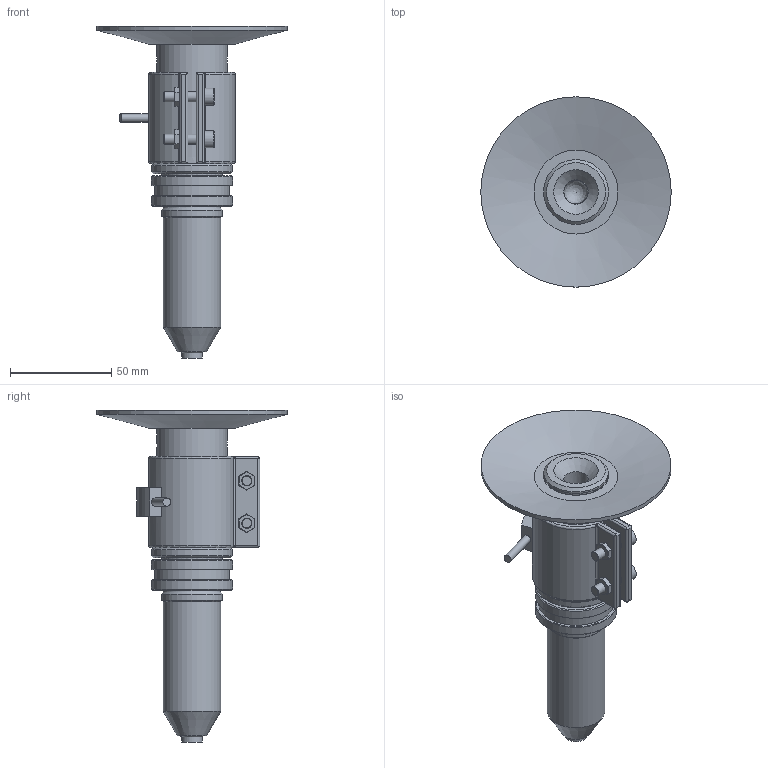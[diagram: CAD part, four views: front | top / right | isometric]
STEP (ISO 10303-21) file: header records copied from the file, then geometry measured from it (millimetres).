
FILE_DESCRIPTION(('STEP AP214'),'1');
FILE_NAME('IPS300-C.stp','2018-06-14T10:13:38',(' '),(' '),'Spatial InterOp 3D',' ',' ');
FILE_SCHEMA(('AUTOMOTIVE_DESIGN { 1 0 10303 214 1 1 1 1 }'));
Length unit declared in the file: millimetre
Products named in the file (1): 1
Bounding box: 94 x 94 x 163.94 mm (x, y, z)
Volume: 147633.6 mm3; surface area: 64680.3 mm2
Topology: 9 solids, 9 shells, 209 faces, 444 edges, 268 vertices
Faces by surface type: plane 96, cylinder 56, cone 37, revolution 10, torus 6, bspline 4
Full cylindrical faces by diameter (mm): 3 x1, 4 x1, 4.2 x2, 4.55 x1, 5 x3, 5.5 x4, 6.6 x1, 7 x2, 8.5 x2, 10.7 x1, 10.72 x1, 22 x2, 28.5 x1, 29.8 x1, 30 x3, 30.3 x1, 32 x3, 37 x1, 40 x3, 94 x1
Entity records: 7544 total; most frequent: CARTESIAN_POINT 1712, DIRECTION 895, ORIENTED_EDGE 672, AXIS2_PLACEMENT_3D 358, EDGE_CURVE 336, EDGE_LOOP 329, FACE_OUTER_BOUND 254, VERTEX_POINT 252
